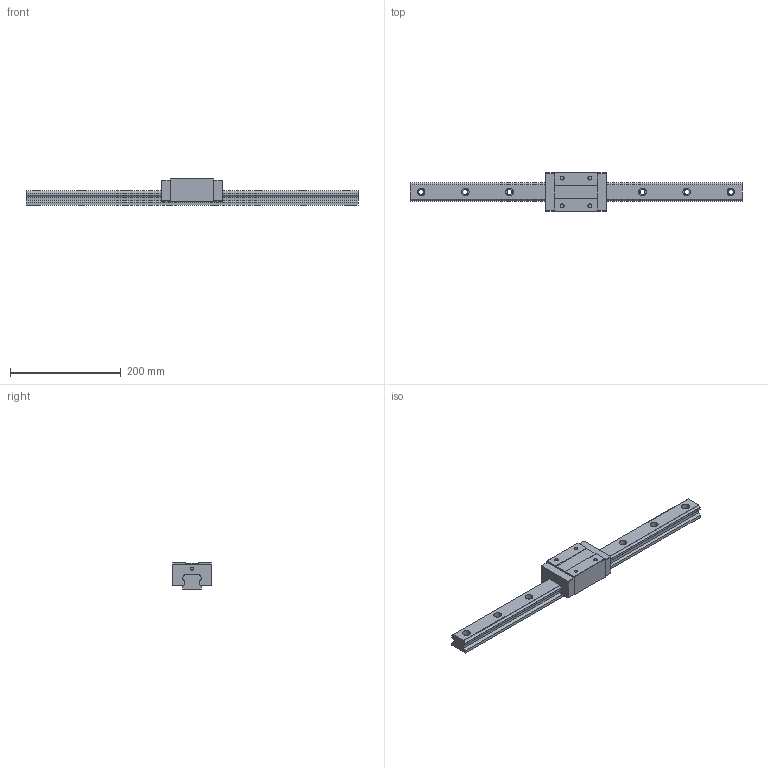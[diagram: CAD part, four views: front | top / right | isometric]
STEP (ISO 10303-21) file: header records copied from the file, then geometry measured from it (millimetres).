
FILE_DESCRIPTION(/* description */ (''),/* implementation_level */ '2;1');
FILE_NAME(/* name */ 'TRS35VN-XN.stp',/* time_stamp */ '2017-10-25T17:09:27+08:00',/* author */ (''),/* organization */ (''),/* preprocessor_version */ 'ST-DEVELOPER v11',/* originating_system */ 'SIEMENS UGS NX 6.0',/* authorisation */ '');
FILE_SCHEMA (('AUTOMOTIVE_DESIGN { 1 0 10303 214 1 1 1 1 }'));
Length unit declared in the file: millimetre
Products named in the file (1): TRS35VN-XN
Bounding box: 600 x 70 x 48 mm (x, y, z)
Volume: 687990.5 mm3; surface area: 116218.5 mm2
Topology: 2 solids, 2 shells, 120 faces, 298 edges, 196 vertices
Faces by surface type: plane 78, cylinder 42
Full cylindrical faces by diameter (mm): 5 x2, 6.75 x4, 9 x8, 14 x8
Entity records: 3946 total; most frequent: DIRECTION 594, CARTESIAN_POINT 577, ORIENTED_EDGE 536, EDGE_CURVE 268, AXIS2_PLACEMENT_3D 205, VERTEX_POINT 188, LINE 184, VECTOR 184
